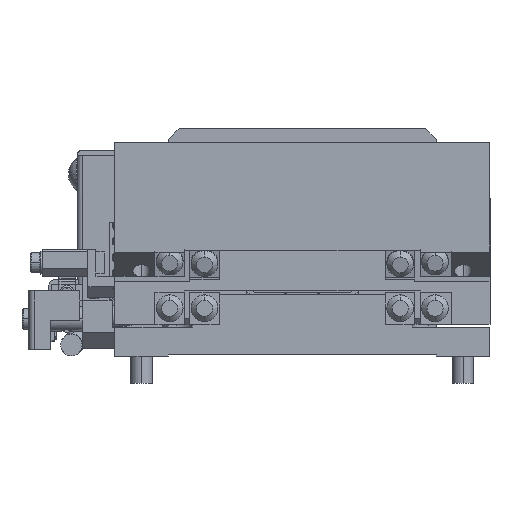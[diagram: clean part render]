
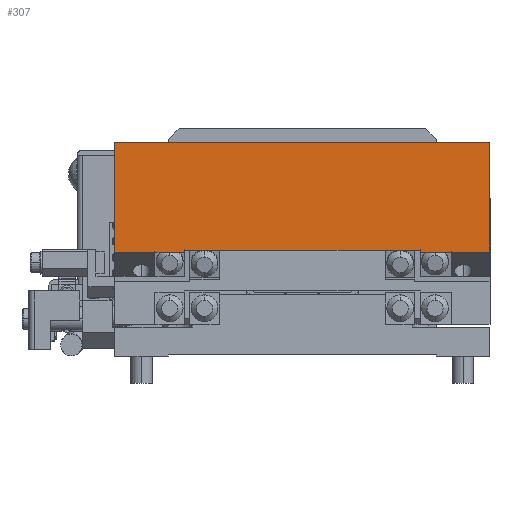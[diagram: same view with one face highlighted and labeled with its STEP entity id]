
A CAD part, left-side view. The second image highlights one B-rep face of the part: STEP entity #307.
In plain terms, the highlighted planar face has unit normal (-1, 0, 0).
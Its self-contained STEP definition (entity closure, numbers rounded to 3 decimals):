
#307=ADVANCED_FACE('',(#3682),#3681,.T.);
#3681=PLANE('',#36922);
#3682=FACE_OUTER_BOUND('',#36923,.T.);
#36919=CARTESIAN_POINT('',(-35.,-42.,17.433));
#36920=DIRECTION('',(-1.,0.,0.));
#36921=DIRECTION('',(0.,0.,1.));
#36922=AXIS2_PLACEMENT_3D('',#36919,#36920,#36921);
#36923=EDGE_LOOP('',(#58448,#58449,#58450,#58451,#58452,#58453,#58454,#58455,#58456,#58457));
#58448=ORIENTED_EDGE('',*,*,#74167,.F.);
#58449=ORIENTED_EDGE('',*,*,#74185,.T.);
#58450=ORIENTED_EDGE('',*,*,#74211,.F.);
#58451=ORIENTED_EDGE('',*,*,#74212,.T.);
#58452=ORIENTED_EDGE('',*,*,#74213,.T.);
#58453=ORIENTED_EDGE('',*,*,#74209,.F.);
#58454=ORIENTED_EDGE('',*,*,#74190,.F.);
#58455=ORIENTED_EDGE('',*,*,#74214,.T.);
#58456=ORIENTED_EDGE('',*,*,#74158,.T.);
#58457=ORIENTED_EDGE('',*,*,#74215,.T.);
#74158=EDGE_CURVE('',#82053,#82046,#82054,.T.);
#74167=EDGE_CURVE('',#82109,#82116,#82117,.T.);
#74185=EDGE_CURVE('',#82109,#82214,#82241,.T.);
#74190=EDGE_CURVE('',#82172,#82274,#82275,.T.);
#74209=EDGE_CURVE('',#82274,#82400,#82401,.T.);
#74211=EDGE_CURVE('',#82413,#82214,#82414,.T.);
#74212=EDGE_CURVE('',#82413,#82420,#82421,.T.);
#74213=EDGE_CURVE('',#82420,#82400,#82427,.T.);
#74214=EDGE_CURVE('',#82172,#82053,#82433,.T.);
#74215=EDGE_CURVE('',#82046,#82116,#82439,.T.);
#82046=VERTEX_POINT('',#134244);
#82053=VERTEX_POINT('',#134248);
#82054=LINE('',#134249,#134250);
#82109=VERTEX_POINT('',#134284);
#82116=VERTEX_POINT('',#134288);
#82117=LINE('',#134289,#134290);
#82172=VERTEX_POINT('',#134316);
#82214=VERTEX_POINT('',#134337);
#82241=LINE('',#134351,#134352);
#82274=VERTEX_POINT('',#134373);
#82275=LINE('',#134374,#134375);
#82400=VERTEX_POINT('',#134445);
#82401=LINE('',#134446,#134447);
#82413=VERTEX_POINT('',#134452);
#82414=LINE('',#134453,#134454);
#82420=VERTEX_POINT('',#134456);
#82421=LINE('',#134457,#134458);
#82427=LINE('',#134460,#134461);
#82433=LINE('',#134463,#134464);
#82439=LINE('',#134466,#134467);
#134244=CARTESIAN_POINT('',(-35.,22.,19.794));
#134248=CARTESIAN_POINT('',(-35.,22.,19.485));
#134249=CARTESIAN_POINT('',(-35.,22.,19.485));
#134250=VECTOR('',#134251,0.309);
#134251=DIRECTION('',(0.,0.,1.));
#134284=CARTESIAN_POINT('',(-35.,-22.,19.485));
#134288=CARTESIAN_POINT('',(-35.,-22.,19.794));
#134289=CARTESIAN_POINT('',(-35.,-22.,19.485));
#134290=VECTOR('',#134291,0.309);
#134291=DIRECTION('',(0.,0.,1.));
#134316=CARTESIAN_POINT('',(-35.,27.5,19.485));
#134337=CARTESIAN_POINT('',(-35.,-27.8,19.485));
#134351=CARTESIAN_POINT('',(-35.,-22.,19.485));
#134352=VECTOR('',#134353,5.8);
#134353=DIRECTION('',(0.,-1.,0.));
#134373=CARTESIAN_POINT('',(-35.,35.,19.485));
#134374=CARTESIAN_POINT('',(-35.,27.5,19.485));
#134375=VECTOR('',#134376,7.5);
#134376=DIRECTION('',(0.,1.,0.));
#134445=CARTESIAN_POINT('',(-35.,35.,40.));
#134446=CARTESIAN_POINT('',(-35.,35.,19.485));
#134447=VECTOR('',#134448,20.515);
#134448=DIRECTION('',(0.,0.,1.));
#134452=CARTESIAN_POINT('',(-35.,-35.,19.485));
#134453=CARTESIAN_POINT('',(-35.,-35.,19.485));
#134454=VECTOR('',#134455,7.2);
#134455=DIRECTION('',(0.,1.,0.));
#134456=CARTESIAN_POINT('',(-35.,-35.,40.));
#134457=CARTESIAN_POINT('',(-35.,-35.,19.485));
#134458=VECTOR('',#134459,20.515);
#134459=DIRECTION('',(0.,0.,1.));
#134460=CARTESIAN_POINT('',(-35.,-35.,40.));
#134461=VECTOR('',#134462,70.);
#134462=DIRECTION('',(0.,1.,0.));
#134463=CARTESIAN_POINT('',(-35.,27.5,19.485));
#134464=VECTOR('',#134465,5.5);
#134465=DIRECTION('',(0.,-1.,0.));
#134466=CARTESIAN_POINT('',(-35.,22.,19.794));
#134467=VECTOR('',#134468,44.);
#134468=DIRECTION('',(0.,-1.,0.));
